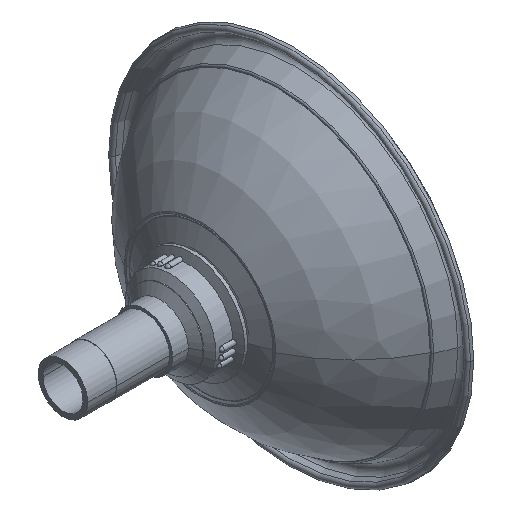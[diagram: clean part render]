
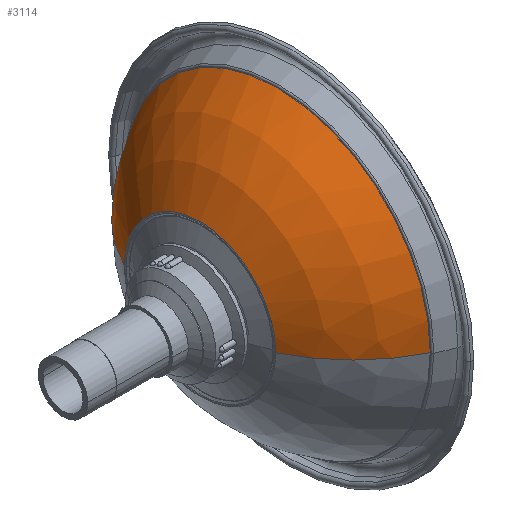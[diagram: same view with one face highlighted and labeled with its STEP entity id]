
A CAD part, isometric view. The second image highlights one B-rep face of the part: STEP entity #3114.
In plain terms, the highlighted spherical face has radius 178 mm.
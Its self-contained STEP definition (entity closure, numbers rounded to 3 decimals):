
#2138=CARTESIAN_POINT('',(0.,103.943,0.));
#2139=DIRECTION('',(0.,-1.,0.));
#2140=DIRECTION('',(1.,0.,0.));
#2141=AXIS2_PLACEMENT_3D('',#2138,#2139,#2140);
#2154=CARTESIAN_POINT('',(0.,-55.524,0.));
#2155=DIRECTION('',(0.,0.,1.));
#2156=DIRECTION('',(0.897,0.443,0.));
#2157=AXIS2_PLACEMENT_3D('',#2154,#2155,#2156);
#2162=CARTESIAN_POINT('',(0.,23.279,0.));
#2163=DIRECTION('',(0.,-1.,0.));
#2164=DIRECTION('',(1.,0.,0.));
#2165=AXIS2_PLACEMENT_3D('',#2162,#2163,#2164);
#2170=CARTESIAN_POINT('',(0.,-55.524,0.));
#2171=DIRECTION('',(0.,0.,-1.));
#2172=DIRECTION('',(-0.897,0.443,0.));
#2173=AXIS2_PLACEMENT_3D('',#2170,#2171,#2172);
#2861=CARTESIAN_POINT('',(159.606,23.279,0.));
#2863=VERTEX_POINT('',#2861);
#2864=CARTESIAN_POINT('',(79.083,103.943,0.));
#2865=VERTEX_POINT('',#2864);
#2887=CARTESIAN_POINT('',(-159.606,23.279,
0.));
#2889=VERTEX_POINT('',#2887);
#2890=CARTESIAN_POINT('',(-79.083,103.943,
0.));
#2891=VERTEX_POINT('',#2890);
#3100=CARTESIAN_POINT('',(0.,-55.524,0.));
#3101=DIRECTION('',(0.,1.,0.));
#3102=DIRECTION('',(1.,0.,0.));
#3103=AXIS2_PLACEMENT_3D('',#3100,#3101,#3102);
#3104=SPHERICAL_SURFACE('',#3103,178.);
#3106=ORIENTED_EDGE('',*,*,#3105,.F.);
#3108=ORIENTED_EDGE('',*,*,#3107,.T.);
#3110=ORIENTED_EDGE('',*,*,#3109,.T.);
#3111=ORIENTED_EDGE('',*,*,#3093,.F.);
#3112=EDGE_LOOP('',(#3106,#3108,#3110,#3111));
#3113=FACE_OUTER_BOUND('',#3112,.F.);
#2142=CIRCLE('',#2141,79.083);
#2158=CIRCLE('',#2157,178.);
#2166=CIRCLE('',#2165,159.606);
#2174=CIRCLE('',#2173,178.);
#3093=EDGE_CURVE('',#2865,#2891,#2142,.T.);
#3105=EDGE_CURVE('',#2863,#2865,#2158,.T.);
#3107=EDGE_CURVE('',#2863,#2889,#2166,.T.);
#3109=EDGE_CURVE('',#2889,#2891,#2174,.T.);
#3114=ADVANCED_FACE('',(#3113),#3104,.T.);
